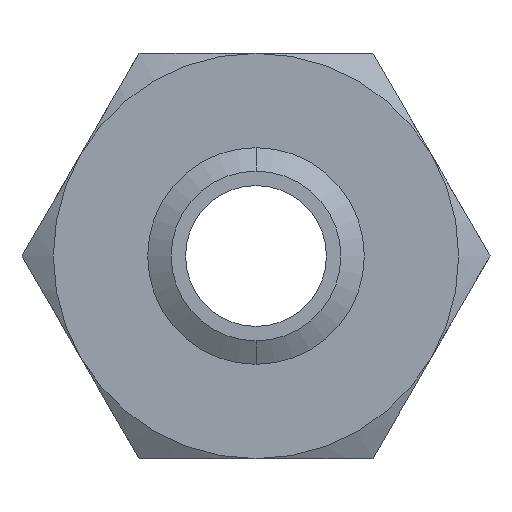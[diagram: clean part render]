
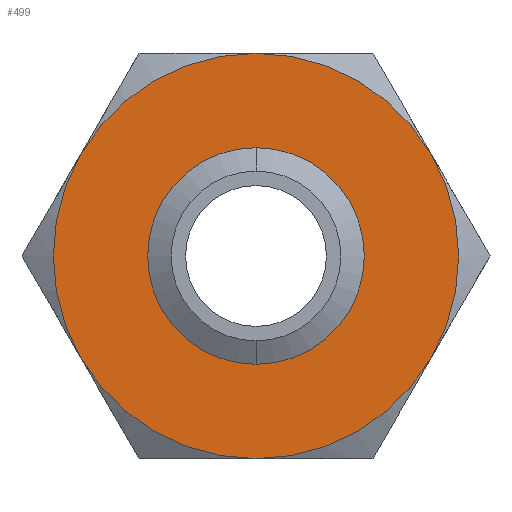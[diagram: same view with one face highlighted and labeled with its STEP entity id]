
A CAD part, front view. The second image highlights one B-rep face of the part: STEP entity #499.
In plain terms, the highlighted planar face has unit normal (0, -1, 0).
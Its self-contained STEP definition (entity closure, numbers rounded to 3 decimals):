
#449 = ORIENTED_EDGE ( 'NONE', *, *, #450, .F. ) ;
#450 = EDGE_CURVE ( 'NONE', #460, #459, #1348, .T. ) ;
#453 = ORIENTED_EDGE ( 'NONE', *, *, #1975, .F. ) ;
#454 = ORIENTED_EDGE ( 'NONE', *, *, #455, .F. ) ;
#455 = EDGE_CURVE ( 'NONE', #1980, #1974, #1342, .T. ) ;
#458 = EDGE_CURVE ( 'NONE', #459, #520, #1324, .T. ) ;
#459 = VERTEX_POINT ( 'NONE', #1325 ) ;
#460 = VERTEX_POINT ( 'NONE', #1319 ) ;
#486 = ORIENTED_EDGE ( 'NONE', *, *, #458, .F. ) ;
#499 = ADVANCED_FACE ( 'NONE', ( #1426, #1425 ), #1424, .F. ) ;
#500 = ORIENTED_EDGE ( 'NONE', *, *, #501, .F. ) ;
#501 = EDGE_CURVE ( 'NONE', #502, #460, #1422, .T. ) ;
#502 = VERTEX_POINT ( 'NONE', #1414 ) ;
#509 = EDGE_LOOP ( 'NONE', ( #519, #486, #449, #500, #516, #512 ) ) ;
#511 = EDGE_CURVE ( 'NONE', #520, #515, #1462, .T. ) ;
#512 = ORIENTED_EDGE ( 'NONE', *, *, #513, .F. ) ;
#513 = EDGE_CURVE ( 'NONE', #515, #518, #1456, .T. ) ;
#514 = EDGE_LOOP ( 'NONE', ( #453, #454 ) ) ;
#515 = VERTEX_POINT ( 'NONE', #1457 ) ;
#516 = ORIENTED_EDGE ( 'NONE', *, *, #517, .F. ) ;
#517 = EDGE_CURVE ( 'NONE', #518, #502, #1451, .T. ) ;
#518 = VERTEX_POINT ( 'NONE', #1446 ) ;
#519 = ORIENTED_EDGE ( 'NONE', *, *, #511, .F. ) ;
#520 = VERTEX_POINT ( 'NONE', #1445 ) ;
#1319 = CARTESIAN_POINT ( 'NONE',  ( -41.136, 0., -23.75 ) ) ;
#1320 = DIRECTION ( 'NONE',  ( 0., 0., 1. ) ) ;
#1321 = DIRECTION ( 'NONE',  ( 0., 1., 0. ) ) ;
#1322 = CARTESIAN_POINT ( 'NONE',  ( 0., 0., 0. ) ) ;
#1323 = AXIS2_PLACEMENT_3D ( 'NONE', #1322, #1321, #1320 ) ;
#1324 = CIRCLE ( 'NONE', #1323, 47.5 ) ;
#1325 = CARTESIAN_POINT ( 'NONE',  ( -41.136, 0., 23.75 ) ) ;
#1338 = DIRECTION ( 'NONE',  ( 0., 0., -1. ) ) ;
#1339 = DIRECTION ( 'NONE',  ( 0., -1., 0. ) ) ;
#1340 = CARTESIAN_POINT ( 'NONE',  ( 0., 0., 0. ) ) ;
#1341 = AXIS2_PLACEMENT_3D ( 'NONE', #1340, #1339, #1338 ) ;
#1342 = CIRCLE ( 'NONE', #1341, 19.901 ) ;
#1344 = DIRECTION ( 'NONE',  ( 0., 0., 1. ) ) ;
#1345 = DIRECTION ( 'NONE',  ( 0., 1., 0. ) ) ;
#1346 = CARTESIAN_POINT ( 'NONE',  ( 0., 0., 0. ) ) ;
#1347 = AXIS2_PLACEMENT_3D ( 'NONE', #1346, #1345, #1344 ) ;
#1348 = CIRCLE ( 'NONE', #1347, 47.5 ) ;
#1414 = CARTESIAN_POINT ( 'NONE',  ( 0., 0., -47.5 ) ) ;
#1415 = DIRECTION ( 'NONE',  ( 0., 0., 1. ) ) ;
#1416 = DIRECTION ( 'NONE',  ( 0., 1., 0. ) ) ;
#1417 = CARTESIAN_POINT ( 'NONE',  ( 0., 0., 0. ) ) ;
#1418 = AXIS2_PLACEMENT_3D ( 'NONE', #1417, #1416, #1415 ) ;
#1419 = DIRECTION ( 'NONE',  ( 0., 0., 1. ) ) ;
#1420 = DIRECTION ( 'NONE',  ( 0., 1., 0. ) ) ;
#1421 = CARTESIAN_POINT ( 'NONE',  ( 27.424, 0., -47.5 ) ) ;
#1422 = CIRCLE ( 'NONE', #1418, 47.5 ) ;
#1423 = AXIS2_PLACEMENT_3D ( 'NONE', #1421, #1420, #1419 ) ;
#1424 = PLANE ( 'NONE',  #1423 ) ;
#1425 = FACE_BOUND ( 'NONE', #514, .T. ) ;
#1426 = FACE_OUTER_BOUND ( 'NONE', #509, .T. ) ;
#1445 = CARTESIAN_POINT ( 'NONE',  ( 0., 0., 47.5 ) ) ;
#1446 = CARTESIAN_POINT ( 'NONE',  ( 41.136, 0., -23.75 ) ) ;
#1447 = DIRECTION ( 'NONE',  ( 0., 0., 1. ) ) ;
#1448 = DIRECTION ( 'NONE',  ( 0., 1., 0. ) ) ;
#1449 = CARTESIAN_POINT ( 'NONE',  ( 0., 0., 0. ) ) ;
#1450 = AXIS2_PLACEMENT_3D ( 'NONE', #1449, #1448, #1447 ) ;
#1451 = CIRCLE ( 'NONE', #1450, 47.5 ) ;
#1452 = DIRECTION ( 'NONE',  ( 0., 0., 1. ) ) ;
#1453 = DIRECTION ( 'NONE',  ( 0., 1., 0. ) ) ;
#1454 = CARTESIAN_POINT ( 'NONE',  ( 0., 0., 0. ) ) ;
#1455 = AXIS2_PLACEMENT_3D ( 'NONE', #1454, #1453, #1452 ) ;
#1456 = CIRCLE ( 'NONE', #1455, 47.5 ) ;
#1457 = CARTESIAN_POINT ( 'NONE',  ( 41.136, 0., 23.75 ) ) ;
#1458 = DIRECTION ( 'NONE',  ( 0., 0., 1. ) ) ;
#1459 = DIRECTION ( 'NONE',  ( 0., 1., 0. ) ) ;
#1460 = CARTESIAN_POINT ( 'NONE',  ( 0., 0., 0. ) ) ;
#1461 = AXIS2_PLACEMENT_3D ( 'NONE', #1460, #1459, #1458 ) ;
#1462 = CIRCLE ( 'NONE', #1461, 47.5 ) ;
#1628 = DIRECTION ( 'NONE',  ( 0., 0., -1. ) ) ;
#1629 = DIRECTION ( 'NONE',  ( 0., -1., 0. ) ) ;
#1630 = CARTESIAN_POINT ( 'NONE',  ( 0., 0., 0. ) ) ;
#1631 = AXIS2_PLACEMENT_3D ( 'NONE', #1630, #1629, #1628 ) ;
#1632 = CIRCLE ( 'NONE', #1631, 19.901 ) ;
#1633 = CARTESIAN_POINT ( 'NONE',  ( 0., 0., -19.901 ) ) ;
#1680 = CARTESIAN_POINT ( 'NONE',  ( 0., 0., 19.901 ) ) ;
#1974 = VERTEX_POINT ( 'NONE', #1633 ) ;
#1975 = EDGE_CURVE ( 'NONE', #1974, #1980, #1632, .T. ) ;
#1980 = VERTEX_POINT ( 'NONE', #1680 ) ;
